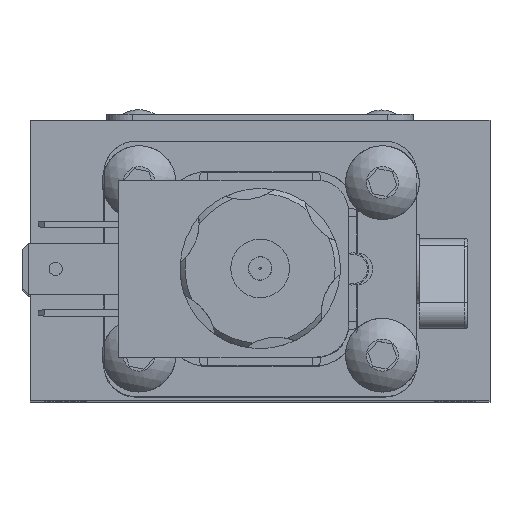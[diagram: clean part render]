
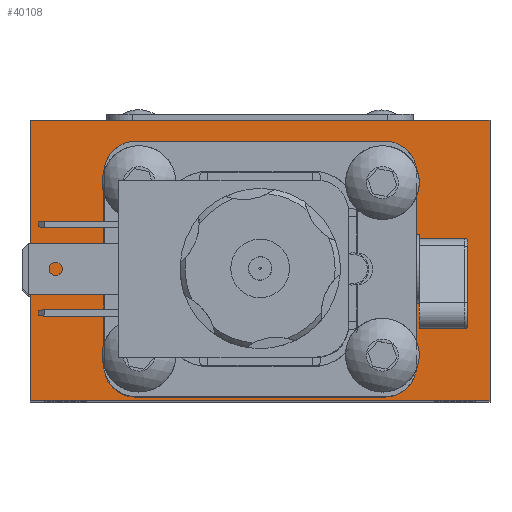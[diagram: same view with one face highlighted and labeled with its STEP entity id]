
A CAD part, top view. The second image highlights one B-rep face of the part: STEP entity #40108.
In plain terms, the highlighted planar face has unit normal (0, 0, 1).
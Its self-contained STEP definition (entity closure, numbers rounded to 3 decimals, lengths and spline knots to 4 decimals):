
#1439=FACE_BOUND('',#5282,.T.);
#1738=PLANE('',#42632);
#2901=FACE_OUTER_BOUND('',#5281,.T.);
#5281=EDGE_LOOP('',(#26097,#26098,#26099,#26100));
#5282=EDGE_LOOP('',(#26101,#26102,#26103,#26104,#26105,#26106,#26107,#26108));
#7901=CIRCLE('',#42633,0.3969);
#7902=CIRCLE('',#42634,0.3969);
#7903=CIRCLE('',#42635,0.3969);
#7904=CIRCLE('',#42636,0.3969);
#9964=LINE('',#60944,#12965);
#9965=LINE('',#60946,#12966);
#9966=LINE('',#60948,#12967);
#9967=LINE('',#60949,#12968);
#9968=LINE('',#60952,#12969);
#9969=LINE('',#60956,#12970);
#9970=LINE('',#60960,#12971);
#9971=LINE('',#60964,#12972);
#12965=VECTOR('',#47343,1.);
#12966=VECTOR('',#47344,1.);
#12967=VECTOR('',#47345,1.);
#12968=VECTOR('',#47346,1.);
#12969=VECTOR('',#47347,1.);
#12970=VECTOR('',#47350,1.);
#12971=VECTOR('',#47353,1.);
#12972=VECTOR('',#47356,1.);
#16105=VERTEX_POINT('',#60942);
#16106=VERTEX_POINT('',#60943);
#16107=VERTEX_POINT('',#60945);
#16108=VERTEX_POINT('',#60947);
#16109=VERTEX_POINT('',#60950);
#16110=VERTEX_POINT('',#60951);
#16111=VERTEX_POINT('',#60953);
#16112=VERTEX_POINT('',#60955);
#16113=VERTEX_POINT('',#60957);
#16114=VERTEX_POINT('',#60959);
#16115=VERTEX_POINT('',#60961);
#16116=VERTEX_POINT('',#60963);
#19941=EDGE_CURVE('',#16105,#16106,#9964,.T.);
#19942=EDGE_CURVE('',#16107,#16106,#9965,.T.);
#19943=EDGE_CURVE('',#16107,#16108,#9966,.T.);
#19944=EDGE_CURVE('',#16108,#16105,#9967,.T.);
#19945=EDGE_CURVE('',#16109,#16110,#9968,.T.);
#19946=EDGE_CURVE('',#16110,#16111,#7901,.T.);
#19947=EDGE_CURVE('',#16111,#16112,#9969,.T.);
#19948=EDGE_CURVE('',#16112,#16113,#7902,.T.);
#19949=EDGE_CURVE('',#16113,#16114,#9970,.T.);
#19950=EDGE_CURVE('',#16114,#16115,#7903,.T.);
#19951=EDGE_CURVE('',#16115,#16116,#9971,.T.);
#19952=EDGE_CURVE('',#16116,#16109,#7904,.T.);
#26097=ORIENTED_EDGE('',*,*,#19941,.T.);
#26098=ORIENTED_EDGE('',*,*,#19942,.F.);
#26099=ORIENTED_EDGE('',*,*,#19943,.T.);
#26100=ORIENTED_EDGE('',*,*,#19944,.T.);
#26101=ORIENTED_EDGE('',*,*,#19945,.T.);
#26102=ORIENTED_EDGE('',*,*,#19946,.T.);
#26103=ORIENTED_EDGE('',*,*,#19947,.T.);
#26104=ORIENTED_EDGE('',*,*,#19948,.T.);
#26105=ORIENTED_EDGE('',*,*,#19949,.T.);
#26106=ORIENTED_EDGE('',*,*,#19950,.T.);
#26107=ORIENTED_EDGE('',*,*,#19951,.T.);
#26108=ORIENTED_EDGE('',*,*,#19952,.T.);
#40108=ADVANCED_FACE('',(#2901,#1439),#1738,.T.);
#42632=AXIS2_PLACEMENT_3D('',#60941,#47341,#47342);
#42633=AXIS2_PLACEMENT_3D('',#60954,#47348,#47349);
#42634=AXIS2_PLACEMENT_3D('',#60958,#47351,#47352);
#42635=AXIS2_PLACEMENT_3D('',#60962,#47354,#47355);
#42636=AXIS2_PLACEMENT_3D('',#60965,#47357,#47358);
#47341=DIRECTION('center_axis',(0.,0.,1.));
#47342=DIRECTION('ref_axis',(1.,0.,0.));
#47343=DIRECTION('',(-1.,0.,0.));
#47344=DIRECTION('',(0.,1.,0.));
#47345=DIRECTION('',(1.,0.,0.));
#47346=DIRECTION('',(0.,1.,0.));
#47347=DIRECTION('',(-1.,0.,0.));
#47348=DIRECTION('center_axis',(0.,0.,
-1.));
#47349=DIRECTION('ref_axis',(1.,0.,0.));
#47350=DIRECTION('',(0.,1.,0.));
#47351=DIRECTION('center_axis',(0.,0.,
-1.));
#47352=DIRECTION('ref_axis',(0.,-1.,0.));
#47353=DIRECTION('',(1.,0.,0.));
#47354=DIRECTION('center_axis',(0.,0.,
-1.));
#47355=DIRECTION('ref_axis',(-1.,0.,0.));
#47356=DIRECTION('',(0.,-1.,0.));
#47357=DIRECTION('center_axis',(0.,0.,
-1.));
#47358=DIRECTION('ref_axis',(0.,1.,0.));
#60941=CARTESIAN_POINT('Origin',(2.8575,0.,4.7104));
#60942=CARTESIAN_POINT('',(2.8575,1.8567,4.7104));
#60943=CARTESIAN_POINT('',(-2.8575,1.8567,4.7104));
#60944=CARTESIAN_POINT('',(-2.8575,1.8567,4.7104));
#60945=CARTESIAN_POINT('',(-2.8575,-1.6358,4.7104));
#60946=CARTESIAN_POINT('',(-2.8575,0.,4.7104));
#60947=CARTESIAN_POINT('',(2.8575,-1.6358,4.7104));
#60948=CARTESIAN_POINT('',(-2.8575,-1.6358,4.7104));
#60949=CARTESIAN_POINT('',(2.8575,0.,4.7104));
#60950=CARTESIAN_POINT('',(1.5478,-1.5875,4.7104));
#60951=CARTESIAN_POINT('',(-1.5478,-1.5875,4.7104));
#60952=CARTESIAN_POINT('',(1.5478,-1.5875,4.7104));
#60953=CARTESIAN_POINT('',(-1.9447,-1.1906,4.7104));
#60954=CARTESIAN_POINT('Origin',(-1.5478,-1.1906,4.7104));
#60955=CARTESIAN_POINT('',(-1.9447,1.1906,4.7104));
#60956=CARTESIAN_POINT('',(-1.9447,-1.1906,4.7104));
#60957=CARTESIAN_POINT('',(-1.5478,1.5875,4.7104));
#60958=CARTESIAN_POINT('Origin',(-1.5478,1.1906,4.7104));
#60959=CARTESIAN_POINT('',(1.5478,1.5875,4.7104));
#60960=CARTESIAN_POINT('',(-1.5478,1.5875,4.7104));
#60961=CARTESIAN_POINT('',(1.9447,1.1906,4.7104));
#60962=CARTESIAN_POINT('Origin',(1.5478,1.1906,4.7104));
#60963=CARTESIAN_POINT('',(1.9447,-1.1906,4.7104));
#60964=CARTESIAN_POINT('',(1.9447,1.1906,4.7104));
#60965=CARTESIAN_POINT('Origin',(1.5478,-1.1906,4.7104));
